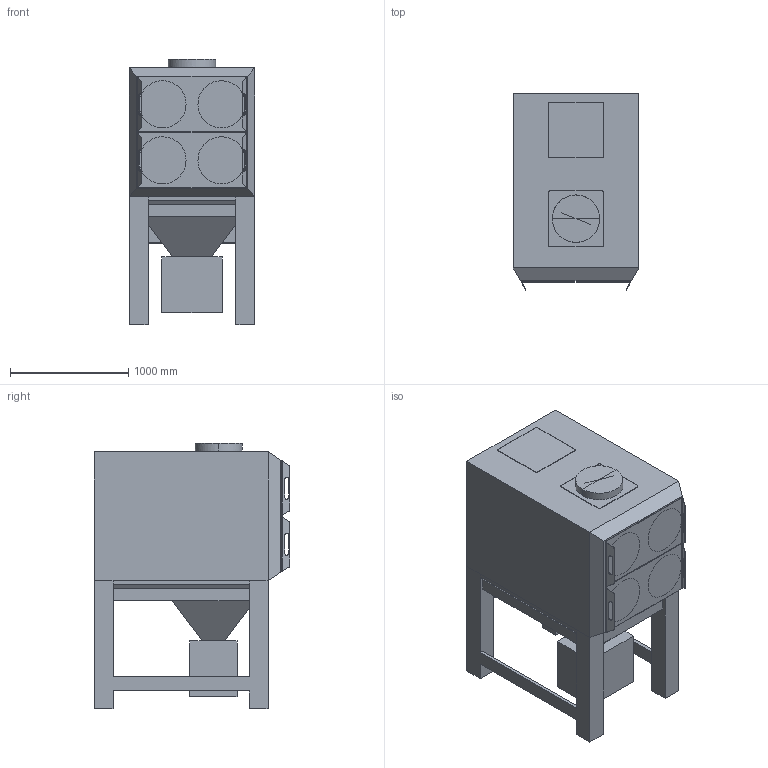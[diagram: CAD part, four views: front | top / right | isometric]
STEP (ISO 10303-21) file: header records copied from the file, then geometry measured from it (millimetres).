
FILE_DESCRIPTION(/* description */ ('Generated from Alias Stage'),/* implementation_level */ '2;1');
FILE_NAME(/* name */ 'CFE4 B',/* time_stamp */ '2016-11-29T15:34:56+01:00',/* author */ (''),/* organization */ ('Autodesk Alias'),/* preprocessor_version */ 'ST-DEVELOPER v11',/* originating_system */ 'Autodesk OpenModel 2016',/* authorisation */ '');
FILE_SCHEMA (('AUTOMOTIVE_DESIGN { 1 2 10303 214 1 1 1 1 }'));
Length unit declared in the file: millimetre
Products named in the file (1): CFE4 B
Bounding box: 1060 x 1654.68 x 2242.07 mm (x, y, z)
Volume: 2220679940 mm3; surface area: 16300503 mm2
Topology: 1 solids, 1 shells, 198 faces, 542 edges, 349 vertices
Faces by surface type: bspline 198
Entity records: 10406 total; most frequent: CARTESIAN_POINT 7778, ORIENTED_EDGE 1076, EDGE_CURVE 538, VERTEX_POINT 349, EDGE_LOOP 221, FACE_OUTER_BOUND 198, ADVANCED_FACE 198, FACE_BOUND 23
